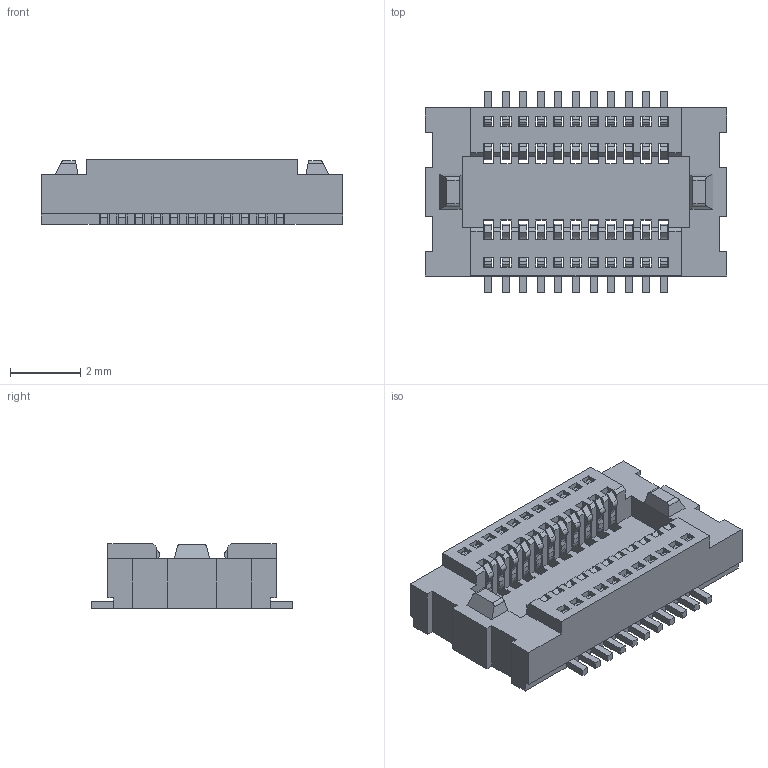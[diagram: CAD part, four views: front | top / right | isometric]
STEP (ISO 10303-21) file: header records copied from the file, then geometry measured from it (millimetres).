
FILE_DESCRIPTION(('CATIA V5 STEP Exchange'),'2;1');
FILE_NAME('F:\黄富鸿\板对板\0.5 单槽\无柱\母座\H1.85\HC-PBB05-1-22-F-H1.85-G1-R-06 (BTB0.5 单槽 母座 立贴 编带)-HCTL.stp','2026-01-23T03:40:33+00:00',('none'),('none'),'CATIA Version 5 Release 20 GA (IN-10)','CATIA V5 STEP AP203','none');
FILE_SCHEMA(('CONFIG_CONTROL_DESIGN'));
Length unit declared in the file: millimetre
Products named in the file (1): Part2
Bounding box: 8.6 x 5.76 x 1.85 mm (x, y, z)
Volume: 48.4 mm3; surface area: 324.4 mm2
Topology: 23 solids, 23 shells, 1022 faces, 3122 edges, 2080 vertices
Faces by surface type: plane 710, cylinder 312
Entity records: 30010 total; most frequent: ORIENTED_EDGE 6244, CARTESIAN_POINT 5427, DIRECTION 3406, EDGE_CURVE 3122, VECTOR 2498, LINE 2498, VERTEX_POINT 2080, EDGE_LOOP 1044
